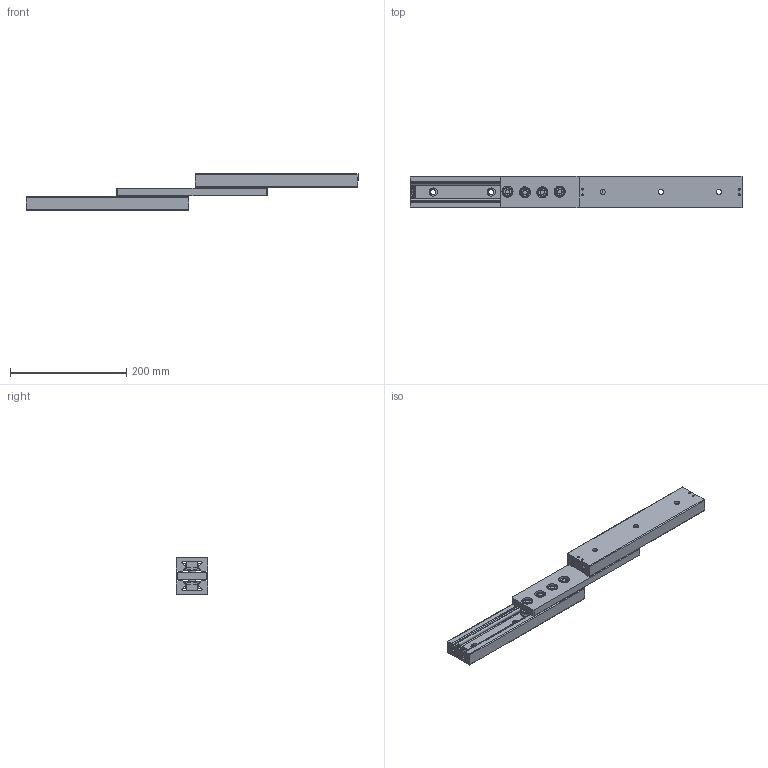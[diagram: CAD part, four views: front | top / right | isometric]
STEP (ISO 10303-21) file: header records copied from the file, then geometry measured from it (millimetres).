
FILE_DESCRIPTION (( 'STEP AP214' ), '1' );
FILE_NAME ('LSIM55DF.STEP', '2021-06-14T01:48:04', ( '' ), ( '' ), 'SwSTEP 2.0', 'SolidWorks 2019', '' );
FILE_SCHEMA (( 'AUTOMOTIVE_DESIGN' ));
Length unit declared in the file: millimetre
Products named in the file (4): LSIM55DFレール; LSIM55ストッパー; LSIM55DF; LSIM55DFリテーナ
Assembly tree (7 placements, depth 2):
  LSIM55DF
    LSIM55DFリテーナ
    LSIM55DFレール  x2
    LSIM55ストッパー  x4
Bounding box: 572 x 55 x 63.5 mm (x, y, z)
Volume: 672168.7 mm3; surface area: 177935.8 mm2
Topology: 7 solids, 7 shells, 486 faces, 1050 edges, 664 vertices
Faces by surface type: plane 258, cylinder 116, cone 104, torus 8
Full cylindrical faces by diameter (mm): 3.3 x8, 4 x8, 7.5 x8, 8 x8, 9 x6, 12.3 x8, 14 x6, 16 x8, 19 x8, 24 x16
Entity records: 8683 total; most frequent: CARTESIAN_POINT 1813, DIRECTION 1405, ORIENTED_EDGE 1282, EDGE_CURVE 641, AXIS2_PLACEMENT_3D 606, EDGE_LOOP 485, VERTEX_POINT 438, FACE_OUTER_BOUND 404
